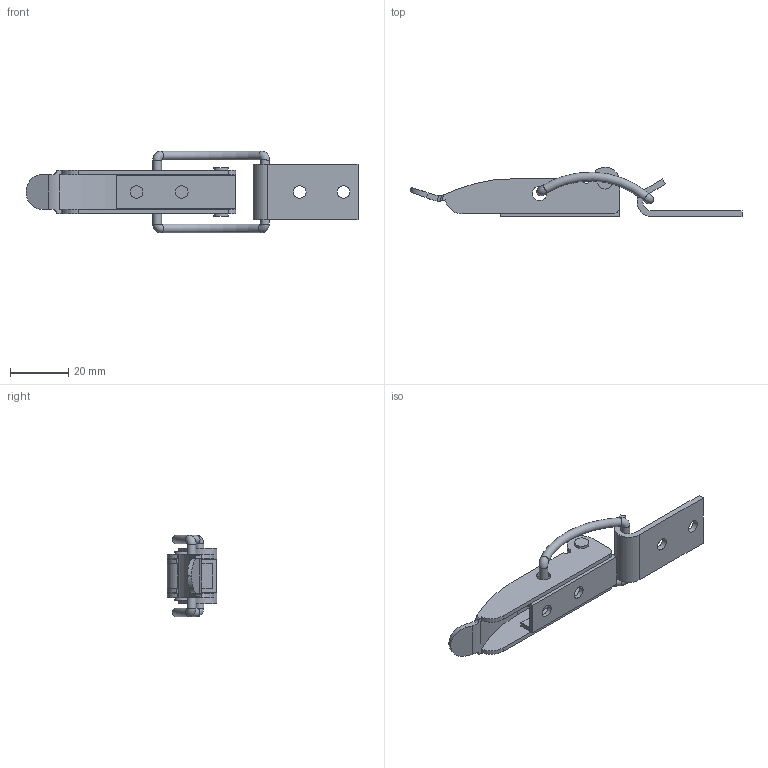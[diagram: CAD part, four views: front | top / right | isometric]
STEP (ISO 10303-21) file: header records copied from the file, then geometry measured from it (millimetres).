
FILE_DESCRIPTION(/* description */ ('STEP AP214'),/* implementation_level */ '2;1');
FILE_NAME(/* name */ 'Toggle latch GN 832.3-100-NI (closed)',/* time_stamp */ '2024-12-09T16:10:52+01:00',/* author */ ('License CC BY-ND 4.0'),/* organization */ ('CADENAS'),/* preprocessor_version */ 'ST-DEVELOPER v19.3',/* originating_system */ 'PARTsolutions',/* authorisation */ ' ');
FILE_SCHEMA (('AUTOMOTIVE_DESIGN {1 0 10303 214 3 1 1}'));
Length unit declared in the file: millimetre
Products named in the file (5): Toggle latch GN 832.3-100-NI (closed); Basic component GN 832.3-100-ST-G; Clamp GN 832.3-100-ST-G; Holder GN 832.3-100-ST-G; Pulling latch GN 832.3-100-ST-G-D
Assembly tree (4 placements, depth 2):
  Toggle latch GN 832.3-100-NI (closed)
    Basic component GN 832.3-100-ST-G
    Clamp GN 832.3-100-ST-G
    Holder GN 832.3-100-ST-G
    Pulling latch GN 832.3-100-ST-G-D
Bounding box: 114 x 17 x 28 mm (x, y, z)
Volume: 7943.7 mm3; surface area: 10850.2 mm2
Topology: 4 solids, 4 shells, 104 faces, 276 edges, 183 vertices
Faces by surface type: plane 59, cylinder 39, torus 6
Full cylindrical faces by diameter (mm): 3 x2, 4.3 x4, 5 x5
Entity records: 3317 total; most frequent: CARTESIAN_POINT 643, DIRECTION 539, ORIENTED_EDGE 506, EDGE_CURVE 253, AXIS2_PLACEMENT_3D 201, VERTEX_POINT 176, LINE 137, VECTOR 137
